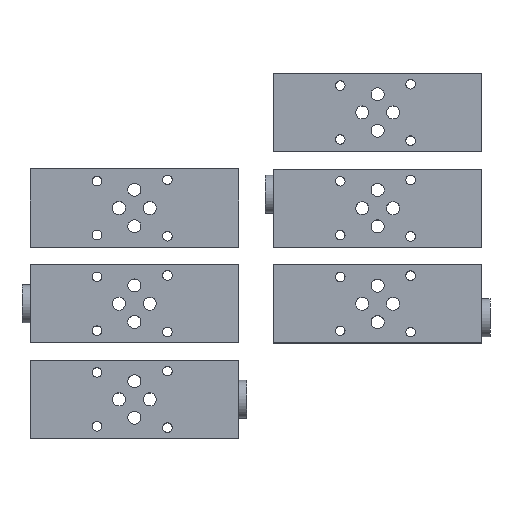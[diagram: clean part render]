
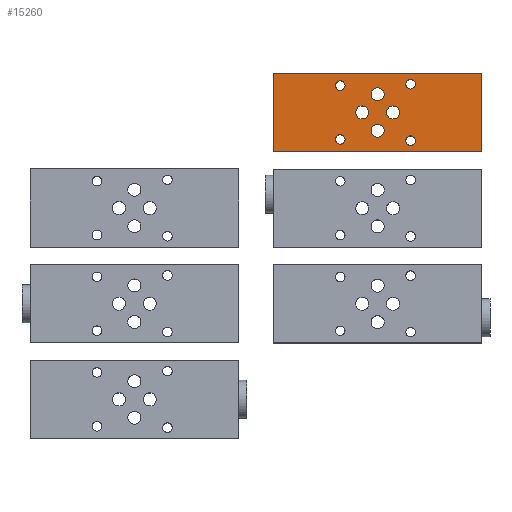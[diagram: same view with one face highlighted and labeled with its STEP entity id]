
A CAD part, top view. The second image highlights one B-rep face of the part: STEP entity #15260.
In plain terms, the highlighted planar face has unit normal (0, 0, 1).
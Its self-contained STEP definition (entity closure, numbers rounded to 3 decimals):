
#15260=ADVANCED_FACE('', (#15270,#15280,#15290,#15300,#15310,#15320,
#15330,#15340,#15350), #15360, .T.);
#48010=AXIS2_PLACEMENT_3D('Ax2Pl3d', #48020, #48030, #48040);
#48090=AXIS2_PLACEMENT_3D('Ax2Pl3d', #48100, #48110, #48120);
#48130=AXIS2_PLACEMENT_3D('Ax2Pl3d', #48140, #48150, #48160);
#48170=AXIS2_PLACEMENT_3D('Ax2Pl3d', #48180, #48190, #48200);
#48210=AXIS2_PLACEMENT_3D('Ax2Pl3d', #48220, #48230, #48240);
#48250=AXIS2_PLACEMENT_3D('Ax2Pl3d', #48260, #48270, #48280);
#48290=AXIS2_PLACEMENT_3D('Ax2Pl3d', #48300, #48310, #48320);
#48330=AXIS2_PLACEMENT_3D('Ax2Pl3d', #48340, #48350, #48360);
#48370=AXIS2_PLACEMENT_3D('Ax2Pl3d', #48380, #48390, #48400);
#56470=CARTESIAN_POINT('', (260.,209.999,140.));
#56480=CARTESIAN_POINT('', (260.,209.999,140.))
;
#56490=CARTESIAN_POINT('', (260.,164.999,140.));
#56600=CARTESIAN_POINT('', (140.,164.999,140.));
#56610=CARTESIAN_POINT('', (140.,164.999,140.));
#56620=CARTESIAN_POINT('', (140.,209.999,140.));
#48020=CARTESIAN_POINT('HicPkt', (200.,197.999,
140.));
#56660=CARTESIAN_POINT('', (200.,201.749,140.));
#48100=CARTESIAN_POINT('HicPkt', (140.,209.999,
140.));
#56680=CARTESIAN_POINT('', (260.,164.999,140.));
#56690=CARTESIAN_POINT('', (140.,209.999,140.));
#48140=CARTESIAN_POINT('HicPkt', (200.,176.999,
140.));
#56700=CARTESIAN_POINT('', (200.,180.749,140.));
#48180=CARTESIAN_POINT('HicPkt', (208.9,187.499,
140.));
#56710=CARTESIAN_POINT('', (208.9,191.249,140.));
#48220=CARTESIAN_POINT('HicPkt', (191.1,187.499,
140.));
#56720=CARTESIAN_POINT('', (191.1,191.249,140.));
#48260=CARTESIAN_POINT('HicPkt', (219.,171.249,
140.));
#56730=CARTESIAN_POINT('', (219.,173.999,140.));
#48300=CARTESIAN_POINT('HicPkt', (219.,203.749,
140.));
#56740=CARTESIAN_POINT('', (219.,206.499,140.));
#48340=CARTESIAN_POINT('HicPkt', (178.5,171.999,
140.));
#56750=CARTESIAN_POINT('', (178.5,174.749,140.));
#48380=CARTESIAN_POINT('HicPkt', (178.5,202.999,
140.));
#56760=CARTESIAN_POINT('', (178.5,205.749,140.));
#60260=CIRCLE('Circle', #48010, 3.75);
#60280=CIRCLE('Circle', #48130, 3.75);
#60290=CIRCLE('Circle', #48170, 3.75);
#60300=CIRCLE('Circle', #48210, 3.75);
#60310=CIRCLE('Circle', #48250, 2.75);
#60320=CIRCLE('Circle', #48290, 2.75);
#60330=CIRCLE('Circle', #48330, 2.75);
#60340=CIRCLE('Circle', #48370, 2.75);
#64020=DIRECTION('', (0.,1.,0.));
#64050=DIRECTION('', (0.,-1.,0.));
#48030=DIRECTION('Axis', (0.,0.,1.));
#48040=DIRECTION('RefDirection', (1.,0.,0.));
#48110=DIRECTION('Axis', (0.,0.,1.));
#48120=DIRECTION('RefDirection', (1.,0.,0.));
#64080=DIRECTION('', (1.,0.,0.));
#64090=DIRECTION('', (-1.,0.,0.));
#48150=DIRECTION('Axis', (0.,0.,1.));
#48160=DIRECTION('RefDirection', (1.,0.,0.));
#48190=DIRECTION('Axis', (0.,0.,1.));
#48200=DIRECTION('RefDirection', (1.,0.,0.));
#48230=DIRECTION('Axis', (0.,0.,1.));
#48240=DIRECTION('RefDirection', (1.,0.,0.));
#48270=DIRECTION('Axis', (0.,0.,1.));
#48280=DIRECTION('RefDirection', (1.,0.,0.));
#48310=DIRECTION('Axis', (0.,0.,1.));
#48320=DIRECTION('RefDirection', (1.,0.,0.));
#48350=DIRECTION('Axis', (0.,0.,1.));
#48360=DIRECTION('RefDirection', (1.,0.,0.));
#48390=DIRECTION('Axis', (0.,0.,1.));
#48400=DIRECTION('RefDirection', (1.,0.,0.));
#74550=EDGE_CURVE('', #74560, #74530, #74570, .T.);
#74760=EDGE_CURVE('', #74770, #74740, #74780, .T.);
#74840=EDGE_CURVE('', #74850, #74850, #60260, .T.);
#74880=EDGE_CURVE('', #74740, #74560, #74890, .T.);
#74900=EDGE_CURVE('', #74530, #74770, #74910, .T.);
#74920=EDGE_CURVE('', #74930, #74930, #60280, .T.);
#74940=EDGE_CURVE('', #74950, #74950, #60290, .T.);
#74960=EDGE_CURVE('', #74970, #74970, #60300, .T.);
#74980=EDGE_CURVE('', #74990, #74990, #60310, .T.);
#75000=EDGE_CURVE('', #75010, #75010, #60320, .T.);
#75020=EDGE_CURVE('', #75030, #75030, #60330, .T.);
#75040=EDGE_CURVE('', #75050, #75050, #60340, .T.);
#92160=EDGE_LOOP('Edge_loop', (#92170,#92180,#92190,#92200));
#92210=EDGE_LOOP('Edge_loop', (#92220));
#92230=EDGE_LOOP('Edge_loop', (#92240));
#92250=EDGE_LOOP('Edge_loop', (#92260));
#92270=EDGE_LOOP('Edge_loop', (#92280));
#92290=EDGE_LOOP('Edge_loop', (#92300));
#92310=EDGE_LOOP('Edge_loop', (#92320));
#92330=EDGE_LOOP('Edge_loop', (#92340));
#92350=EDGE_LOOP('Edge_loop', (#92360));
#15280=FACE_BOUND('', #92210, .T.);
#15290=FACE_BOUND('', #92230, .T.);
#15300=FACE_BOUND('', #92250, .T.);
#15310=FACE_BOUND('', #92270, .T.);
#15320=FACE_BOUND('', #92290, .T.);
#15330=FACE_BOUND('', #92310, .T.);
#15340=FACE_BOUND('', #92330, .T.);
#15350=FACE_BOUND('', #92350, .T.);
#15270=FACE_OUTER_BOUND('Face_outer_bound', #92160, .T.);
#74570=LINE('Line', #56480, #98310);
#74780=LINE('Line', #56610, #98340);
#74890=LINE('Line', #56680, #98370);
#74910=LINE('Line', #56690, #98380);
#92170=ORIENTED_EDGE('', *, *, #74760, .T.);
#92180=ORIENTED_EDGE('', *, *, #74880, .T.);
#92190=ORIENTED_EDGE('', *, *, #74550, .T.);
#92200=ORIENTED_EDGE('', *, *, #74900, .T.);
#92220=ORIENTED_EDGE('', *, *, #74840, .F.);
#92240=ORIENTED_EDGE('', *, *, #74920, .F.);
#92260=ORIENTED_EDGE('', *, *, #74940, .F.);
#92280=ORIENTED_EDGE('', *, *, #74960, .F.);
#92300=ORIENTED_EDGE('', *, *, #74980, .F.);
#92320=ORIENTED_EDGE('', *, *, #75000, .F.);
#92340=ORIENTED_EDGE('', *, *, #75020, .F.);
#92360=ORIENTED_EDGE('', *, *, #75040, .F.);
#15360=PLANE('Plane', #48090);
#98310=VECTOR('', #64020, 45.);
#98340=VECTOR('', #64050, 45.);
#98370=VECTOR('', #64080, 120.);
#98380=VECTOR('', #64090, 120.);
#74530=VERTEX_POINT('', #56470);
#74560=VERTEX_POINT('', #56490);
#74740=VERTEX_POINT('', #56600);
#74770=VERTEX_POINT('', #56620);
#74850=VERTEX_POINT('', #56660);
#74930=VERTEX_POINT('', #56700);
#74950=VERTEX_POINT('', #56710);
#74970=VERTEX_POINT('', #56720);
#74990=VERTEX_POINT('', #56730);
#75010=VERTEX_POINT('', #56740);
#75030=VERTEX_POINT('', #56750);
#75050=VERTEX_POINT('', #56760);
